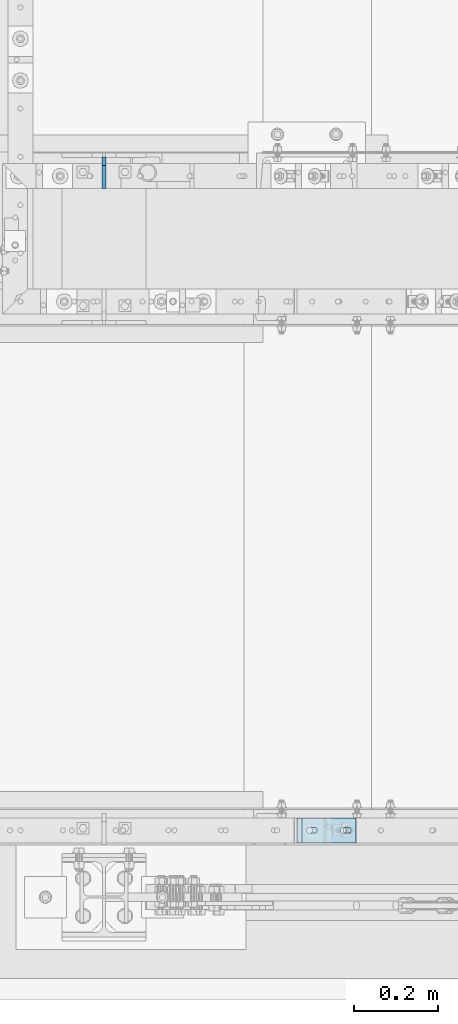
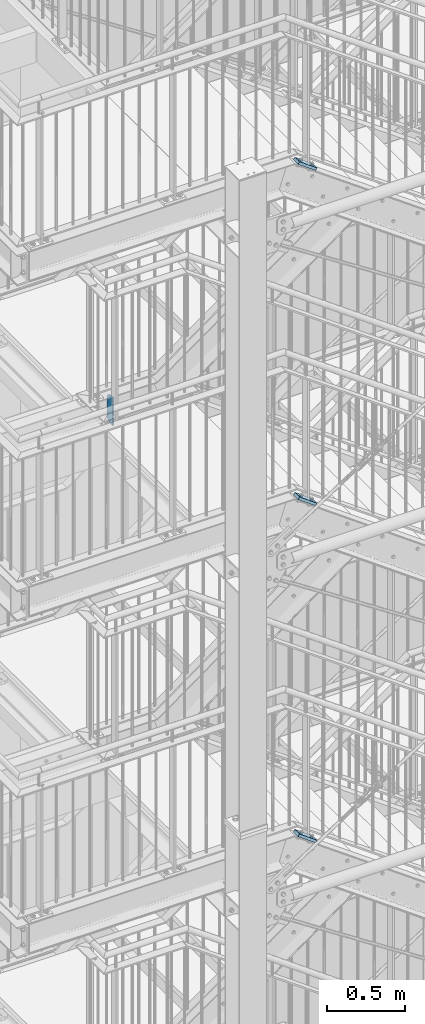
# One storey, part 168 of 831: 4 plates, 8 openings.
"""IFC2X3 building model written with IfcOpenShell, lengths in millimetres."""

from ifc_helpers import new_model, entity, si_unit, converted_unit, point, frame, frame_2d, origin, origin_with_axes, place, context, project, spatial, polyline, circle_curve, line_curve, trimmed, segment, composite_curve, outline, extrude, material, layer, layer_set, element, save


model = new_model("IFC2X3")

# Units and contexts
model_context = context("Model", 3, precision=1e-09, world=origin_with_axes())
ifc_project = project(units=[si_unit("LENGTHUNIT", "METRE", prefix="MILLI"), si_unit("AREAUNIT", "SQUARE_METRE"), si_unit("VOLUMEUNIT", "CUBIC_METRE"), converted_unit("PLANEANGLEUNIT", "DEGREE", entity("IfcPlaneAngleMeasure", 0.01745329), si_unit("PLANEANGLEUNIT", "RADIAN"), dimensions=[0, 0, 0, 0, 0, 0, 0])], contexts=[model_context])

# Site, building, storey
site_placement = place(None, origin_with_axes())
site = spatial("IfcSite", under=ifc_project, at=site_placement, Name="Site", CompositionType="ELEMENT")
building_placement = place(site_placement, origin_with_axes())
building = spatial("IfcBuilding", under=site, at=building_placement, Name="Struktur 1", CompositionType="ELEMENT")
storey_placement = place(building_placement, origin_with_axes())
storey = spatial("IfcBuildingStorey", under=building, at=storey_placement, Name="Default Storey", CompositionType="ELEMENT", Elevation=0.0)

# Plate, openings
ifc_material = material(Name="S235JR")
ifc_layer_1 = layer(ifc_material, 20.0)
ifc_layer_set_1 = layer_set([ifc_layer_1], Name="S235JR")
plate_1_placement = place(None, frame((5318.224195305, 4496.736971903, 12560.173392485), z_axis=(0.585213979, 0.0, 0.810878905), x_axis=(0.810878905, 0.0, -0.585213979)))
plate_1 = element("IfcPlate", 1, at=plate_1_placement, inside=storey, material=ifc_layer_set_1, Name="Plate#511", ObjectType="Plate#511", context=model_context, shape_type="SweptSolid", body=[
    extrude(outline(polyline([(0.0, 0.0), (160.0, 0.0), (160.0, 60.0), (0.0, 60.0), (0.0, 0.0)])), origin_with_axes(), (0.0, 0.0, 1.0), 20.0),
])
opening_1_placement = place(plate_1_placement, frame((38.0, 37.001, 20.5), z_axis=(0.0, 0.0, 1.0), x_axis=(-1.0, 0.0, 0.0)))
element("IfcOpeningElement", 2, at=opening_1_placement, cuts=plate_1, ObjectType="Opening", context=model_context, shape_type="SweptSolid", body=[
    extrude(outline(composite_curve([segment(trimmed(line_curve((0.0, 0.0), (1.0, 0.0), 16.0), [point((0.0, 0.0))], [point((16.0, 0.0))], True, "CARTESIAN"), True, "CONTINUOUS"), segment(trimmed(circle_curve(frame_2d((16.0, 7.001), x_axis=(1.0, 0.0)), 7.001), [point((16.0, 0.0))], [point((16.0, 14.002))], True, "CARTESIAN"), True, "CONTINUOUS"), segment(trimmed(line_curve((16.0, 14.002), (-1.0, 0.0), 16.0), [point((16.0, 14.002))], [point((0.0, 14.002))], True, "CARTESIAN"), True, "CONTINUOUS"), segment(trimmed(circle_curve(frame_2d((0.0, 7.001), x_axis=(1.0, 0.0)), 7.001), [point((0.0, 14.002))], [point((0.0, 0.0))], True, "CARTESIAN"), True, "CONTINUOUS")], self_intersect=False)), origin(), (0.0, 0.0, -1.0), 21.0),
])
opening_2_placement = place(plate_1_placement, frame((138.0, 37.001, 20.5), z_axis=(0.0, 0.0, 1.0), x_axis=(-1.0, 0.0, 0.0)))
element("IfcOpeningElement", 3, at=opening_2_placement, cuts=plate_1, ObjectType="Opening", context=model_context, shape_type="SweptSolid", body=[
    extrude(outline(composite_curve([segment(trimmed(line_curve((0.0, 0.0), (1.0, 0.0), 16.0), [point((0.0, 0.0))], [point((16.0, 0.0))], True, "CARTESIAN"), True, "CONTINUOUS"), segment(trimmed(circle_curve(frame_2d((16.0, 7.001), x_axis=(1.0, 0.0)), 7.001), [point((16.0, 0.0))], [point((16.0, 14.002))], True, "CARTESIAN"), True, "CONTINUOUS"), segment(trimmed(line_curve((16.0, 14.002), (-1.0, 0.0), 16.0), [point((16.0, 14.002))], [point((0.0, 14.002))], True, "CARTESIAN"), True, "CONTINUOUS"), segment(trimmed(circle_curve(frame_2d((0.0, 7.001), x_axis=(1.0, 0.0)), 7.001), [point((0.0, 14.002))], [point((0.0, 0.0))], True, "CARTESIAN"), True, "CONTINUOUS")], self_intersect=False)), origin(), (0.0, 0.0, -1.0), 21.0),
])

plate_2_placement = place(None, frame((5318.296225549, 4496.736971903, 15194.942105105), z_axis=(0.586383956, 0.0, 0.810033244), x_axis=(0.810033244, 0.0, -0.586383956)))
plate_2 = element("IfcPlate", 4, at=plate_2_placement, inside=storey, material=ifc_layer_set_1, Name="Plate#511", ObjectType="Plate#511", context=model_context, shape_type="SweptSolid", body=[
    extrude(outline(polyline([(0.0, 0.0), (160.0, 0.0), (160.0, 60.0), (0.0, 60.0), (0.0, 0.0)])), origin_with_axes(), (0.0, 0.0, 1.0), 20.0),
])
opening_3_placement = place(plate_2_placement, frame((38.0, 37.001, 20.5), z_axis=(0.0, 0.0, 1.0), x_axis=(-1.0, 0.0, 0.0)))
element("IfcOpeningElement", 5, at=opening_3_placement, cuts=plate_2, ObjectType="Opening", context=model_context, shape_type="SweptSolid", body=[
    extrude(outline(composite_curve([segment(trimmed(line_curve((0.0, 0.0), (1.0, 0.0), 16.0), [point((0.0, 0.0))], [point((16.0, 0.0))], True, "CARTESIAN"), True, "CONTINUOUS"), segment(trimmed(circle_curve(frame_2d((16.0, 7.001), x_axis=(1.0, 0.0)), 7.001), [point((16.0, 0.0))], [point((16.0, 14.002))], True, "CARTESIAN"), True, "CONTINUOUS"), segment(trimmed(line_curve((16.0, 14.002), (-1.0, 0.0), 16.0), [point((16.0, 14.002))], [point((0.0, 14.002))], True, "CARTESIAN"), True, "CONTINUOUS"), segment(trimmed(circle_curve(frame_2d((0.0, 7.001), x_axis=(1.0, 0.0)), 7.001), [point((0.0, 14.002))], [point((0.0, 0.0))], True, "CARTESIAN"), True, "CONTINUOUS")], self_intersect=False)), origin(), (0.0, 0.0, -1.0), 21.0),
])
opening_4_placement = place(plate_2_placement, frame((138.0, 37.001, 20.5), z_axis=(0.0, 0.0, 1.0), x_axis=(-1.0, 0.0, 0.0)))
element("IfcOpeningElement", 6, at=opening_4_placement, cuts=plate_2, ObjectType="Opening", context=model_context, shape_type="SweptSolid", body=[
    extrude(outline(composite_curve([segment(trimmed(line_curve((0.0, 0.0), (1.0, 0.0), 16.0), [point((0.0, 0.0))], [point((16.0, 0.0))], True, "CARTESIAN"), True, "CONTINUOUS"), segment(trimmed(circle_curve(frame_2d((16.0, 7.001), x_axis=(1.0, 0.0)), 7.001), [point((16.0, 0.0))], [point((16.0, 14.002))], True, "CARTESIAN"), True, "CONTINUOUS"), segment(trimmed(line_curve((16.0, 14.002), (-1.0, 0.0), 16.0), [point((16.0, 14.002))], [point((0.0, 14.002))], True, "CARTESIAN"), True, "CONTINUOUS"), segment(trimmed(circle_curve(frame_2d((0.0, 7.001), x_axis=(1.0, 0.0)), 7.001), [point((0.0, 14.002))], [point((0.0, 0.0))], True, "CARTESIAN"), True, "CONTINUOUS")], self_intersect=False)), origin(), (0.0, 0.0, -1.0), 21.0),
])

plate_3_placement = place(None, frame((5318.161163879, 4496.736971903, 17815.375512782), z_axis=(0.584187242, 0.0, 0.811618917), x_axis=(0.811618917, 0.0, -0.584187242)))
plate_3 = element("IfcPlate", 7, at=plate_3_placement, inside=storey, material=ifc_layer_set_1, Name="Plate#511", ObjectType="Plate#511", context=model_context, shape_type="SweptSolid", body=[
    extrude(outline(polyline([(0.0, 0.0), (160.0, 0.0), (160.0, 60.0), (0.0, 60.0), (0.0, 0.0)])), origin_with_axes(), (0.0, 0.0, 1.0), 20.0),
])
opening_5_placement = place(plate_3_placement, frame((38.0, 37.001, 20.5), z_axis=(0.0, 0.0, 1.0), x_axis=(-1.0, 0.0, 0.0)))
element("IfcOpeningElement", 8, at=opening_5_placement, cuts=plate_3, ObjectType="Opening", context=model_context, shape_type="SweptSolid", body=[
    extrude(outline(composite_curve([segment(trimmed(line_curve((0.0, 0.0), (1.0, 0.0), 16.0), [point((0.0, 0.0))], [point((16.0, 0.0))], True, "CARTESIAN"), True, "CONTINUOUS"), segment(trimmed(circle_curve(frame_2d((16.0, 7.001), x_axis=(1.0, 0.0)), 7.001), [point((16.0, 0.0))], [point((16.0, 14.002))], True, "CARTESIAN"), True, "CONTINUOUS"), segment(trimmed(line_curve((16.0, 14.002), (-1.0, 0.0), 16.0), [point((16.0, 14.002))], [point((0.0, 14.002))], True, "CARTESIAN"), True, "CONTINUOUS"), segment(trimmed(circle_curve(frame_2d((0.0, 7.001), x_axis=(1.0, 0.0)), 7.001), [point((0.0, 14.002))], [point((0.0, 0.0))], True, "CARTESIAN"), True, "CONTINUOUS")], self_intersect=False)), origin(), (0.0, 0.0, -1.0), 21.0),
])
opening_6_placement = place(plate_3_placement, frame((138.0, 37.001, 20.5), z_axis=(0.0, 0.0, 1.0), x_axis=(-1.0, 0.0, 0.0)))
element("IfcOpeningElement", 9, at=opening_6_placement, cuts=plate_3, ObjectType="Opening", context=model_context, shape_type="SweptSolid", body=[
    extrude(outline(composite_curve([segment(trimmed(line_curve((0.0, 0.0), (1.0, 0.0), 16.0), [point((0.0, 0.0))], [point((16.0, 0.0))], True, "CARTESIAN"), True, "CONTINUOUS"), segment(trimmed(circle_curve(frame_2d((16.0, 7.001), x_axis=(1.0, 0.0)), 7.001), [point((16.0, 0.0))], [point((16.0, 14.002))], True, "CARTESIAN"), True, "CONTINUOUS"), segment(trimmed(line_curve((16.0, 14.002), (-1.0, 0.0), 16.0), [point((16.0, 14.002))], [point((0.0, 14.002))], True, "CARTESIAN"), True, "CONTINUOUS"), segment(trimmed(circle_curve(frame_2d((0.0, 7.001), x_axis=(1.0, 0.0)), 7.001), [point((0.0, 14.002))], [point((0.0, 0.0))], True, "CARTESIAN"), True, "CONTINUOUS")], self_intersect=False)), origin(), (0.0, 0.0, -1.0), 21.0),
])

ifc_layer_2 = layer(ifc_material, 10.0)
ifc_layer_set_2 = layer_set([ifc_layer_2], Name="S235JR")
plate_4_placement = place(None, frame((4861.713402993, 6062.236971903, 15202.855265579), z_axis=(-1.0, 0.0, 0.0), x_axis=(0.0, 0.996815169, -0.079746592)))
plate_4 = element("IfcPlate", 10, at=plate_4_placement, inside=storey, material=ifc_layer_set_2, Name="Stiffener#1", ObjectType="Stiffener#1", context=model_context, shape_type="SweptSolid", body=[
    extrude(outline(polyline([(0.0, 0.0), (75.239625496, 0.0), (91.644322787, 205.05517107), (17.361672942, 217.017159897), (0.0, 0.0)])), origin_with_axes(), (0.0, 0.0, 1.0), 10.0),
])
opening_7_placement = place(plate_4_placement, frame((0.0, 0.0, -0.01), z_axis=(0.0, 0.0, 1.0), x_axis=(1.0, 0.0, 0.0)))
element("IfcOpeningElement", 11, at=opening_7_placement, cuts=plate_4, ObjectType="Opening", context=model_context, shape_type="SweptSolid", body=[
    extrude(outline(polyline([(91.644322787, 205.05517107), (71.898703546, 208.23487558), (90.049390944, 185.118867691), (91.644322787, 205.05517107)])), origin(), (0.0, 0.0, 1.0), 10.02),
])
opening_8_placement = place(plate_4_placement, frame((0.0, 0.0, -0.01), z_axis=(0.0, 0.0, 1.0), x_axis=(1.0, 0.0, 0.0)))
element("IfcOpeningElement", 12, at=opening_8_placement, cuts=plate_4, ObjectType="Opening", context=model_context, shape_type="SweptSolid", body=[
    extrude(outline(polyline([(75.239625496, 0.0), (76.83455734, 19.936303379), (55.239625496, 0.0), (75.239625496, 0.0)])), origin(), (0.0, 0.0, 1.0), 10.02),
])

save(model, "model.ifc")
